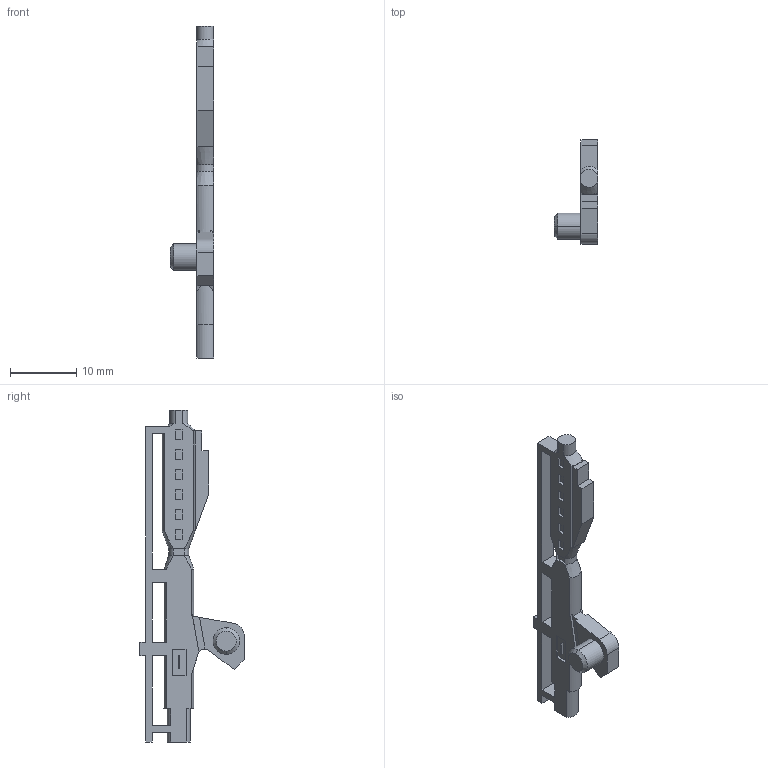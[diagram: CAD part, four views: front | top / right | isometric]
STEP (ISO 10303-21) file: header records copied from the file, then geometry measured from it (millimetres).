
FILE_DESCRIPTION (( 'STEP AP214' ), '1' );
FILE_NAME ('B1-Blaster-Standard.step', '2023-08-03T13:48:58', ( '' ), ( '' ), 'SwSTEP 2.0', 'SolidWorks 2020', '' );
FILE_SCHEMA (( 'AUTOMOTIVE_DESIGN' ));
Length unit declared in the file: millimetre
Products named in the file (1): B1-Blaster-Standard
Bounding box: 6.5 x 15.74 x 49.99 mm (x, y, z)
Volume: 860.3 mm3; surface area: 1374 mm2
Topology: 2 solids, 2 shells, 166 faces, 423 edges, 276 vertices
Faces by surface type: plane 140, cylinder 18, cone 8
Entity records: 5028 total; most frequent: CARTESIAN_POINT 962, ORIENTED_EDGE 846, DIRECTION 779, EDGE_CURVE 423, VECTOR 361, LINE 361, VERTEX_POINT 276, AXIS2_PLACEMENT_3D 209
